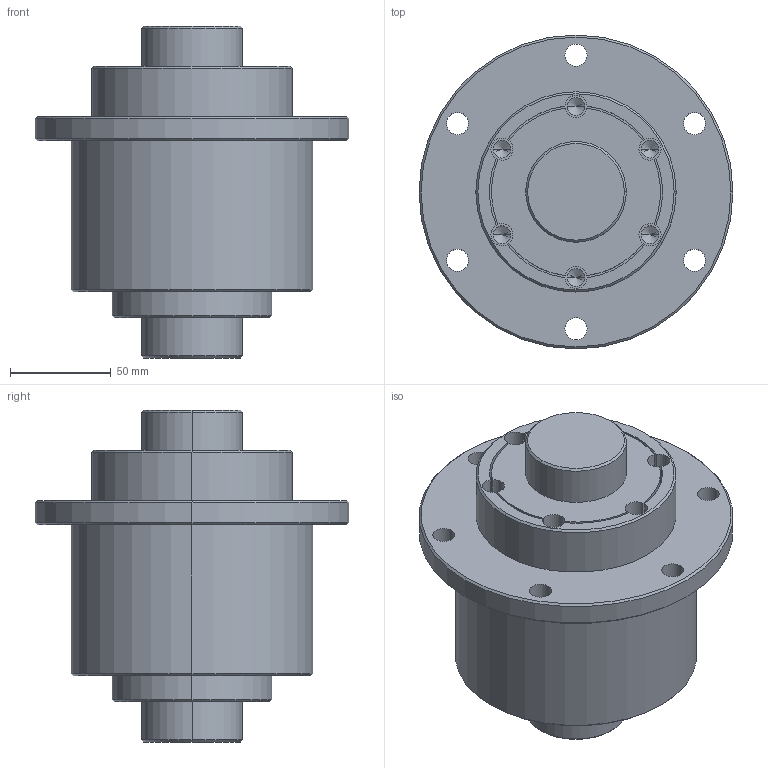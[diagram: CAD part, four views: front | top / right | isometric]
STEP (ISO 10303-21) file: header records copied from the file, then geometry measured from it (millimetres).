
FILE_DESCRIPTION (( 'STEP AP203' ), '1' );
FILE_NAME ('RLBF50.STEP', '2014-11-13T09:04:45', ( '' ), ( '' ), 'SwSTEP 2.0', 'SolidWorks 2014', '' );
FILE_SCHEMA (( 'CONFIG_CONTROL_DESIGN' ));
Length unit declared in the file: millimetre
Products named in the file (1): RLBF50
Bounding box: 156 x 156 x 165 mm (x, y, z)
Volume: 1387556.7 mm3; surface area: 148522.7 mm2
Topology: 3 solids, 3 shells, 104 faces, 256 edges, 156 vertices
Faces by surface type: cylinder 68, cone 26, plane 10
Entity records: 3143 total; most frequent: DIRECTION 604, CARTESIAN_POINT 505, ORIENTED_EDGE 488, AXIS2_PLACEMENT_3D 255, EDGE_CURVE 244, VERTEX_POINT 156, CIRCLE 150, EDGE_LOOP 130
